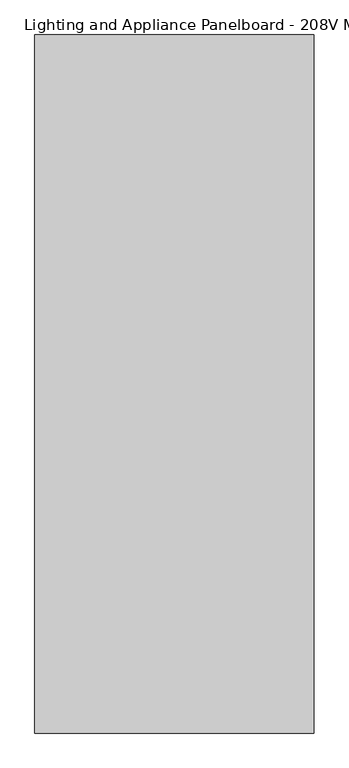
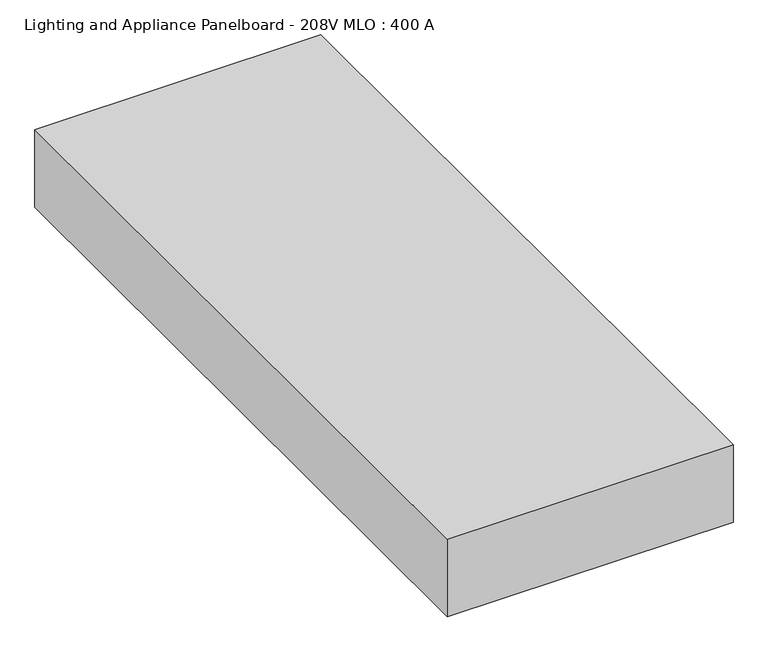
"""IFC4 building model written with IfcOpenShell, lengths in millimetres: proxy geometry, Lighting and Appliance Panelboard - 208V MLO : 400 A."""

from ifc_helpers import new_model, si_unit, frame, origin, place, context, project, spatial, polyline, outline, extrude, source, transform, mapped, element, save


def lighting_and_appliance_panelboard_208v_mlo_400_a_cc8ff811(model_context):
    return source(origin(), model_context, "Body", "SweptSolid", [
        extrude(outline(polyline([(254.0, 635.0), (254.0, -635.0), (-254.0, -635.0), (-254.0, 635.0), (254.0, 635.0)])), frame((0.0, 0.0, -146.05), z_axis=(0.0, 0.0, 1.0), x_axis=(1.0, 0.0, 0.0)), (0.0, 0.0, 1.0), 146.05),
    ])


if __name__ == "__main__":
    model = new_model("IFC4")
    model_context = context("Model", 3, world=origin())
    ifc_project = project(units=[si_unit("LENGTHUNIT", "METRE", prefix="MILLI")], contexts=[model_context])
    site = spatial("IfcSite", under=ifc_project)
    building = spatial("IfcBuilding", under=site)
    placement = place(None, origin())
    lighting_and_appliance_panelboard_208v_mlo_400_a_shape = lighting_and_appliance_panelboard_208v_mlo_400_a_cc8ff811(model_context)
    element("IfcBuildingElementProxy", 1, Name="Lighting and Appliance Panelboard - 208V MLO : 400 A", ObjectType="Lighting and Appliance Panelboard - 208V MLO : 400 A", at=placement, inside=building, context=model_context, shape_type="MappedRepresentation", body=[
        mapped(lighting_and_appliance_panelboard_208v_mlo_400_a_shape, transform((0.0, 0.0, 0.0), x_axis=(1.0, 0.0, 0.0), y_axis=(0.0, 1.0, 0.0), z_axis=(0.0, 0.0, 1.0))),
    ])
    save(model, "model.ifc")
